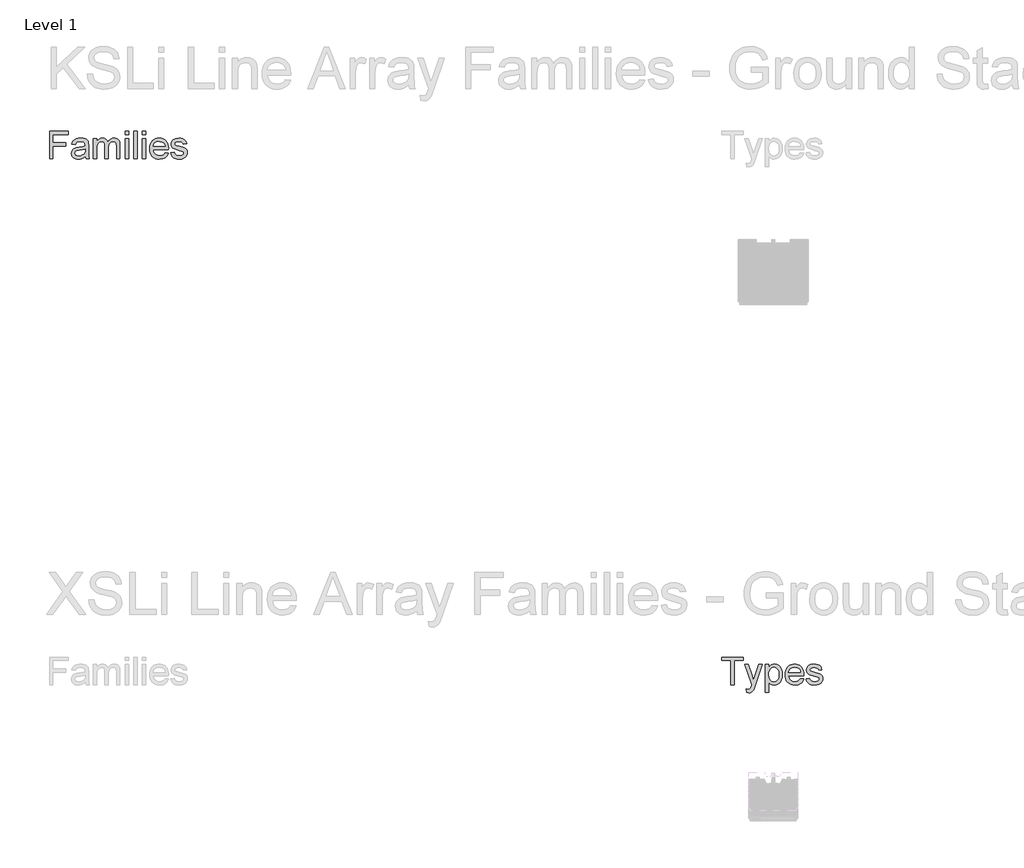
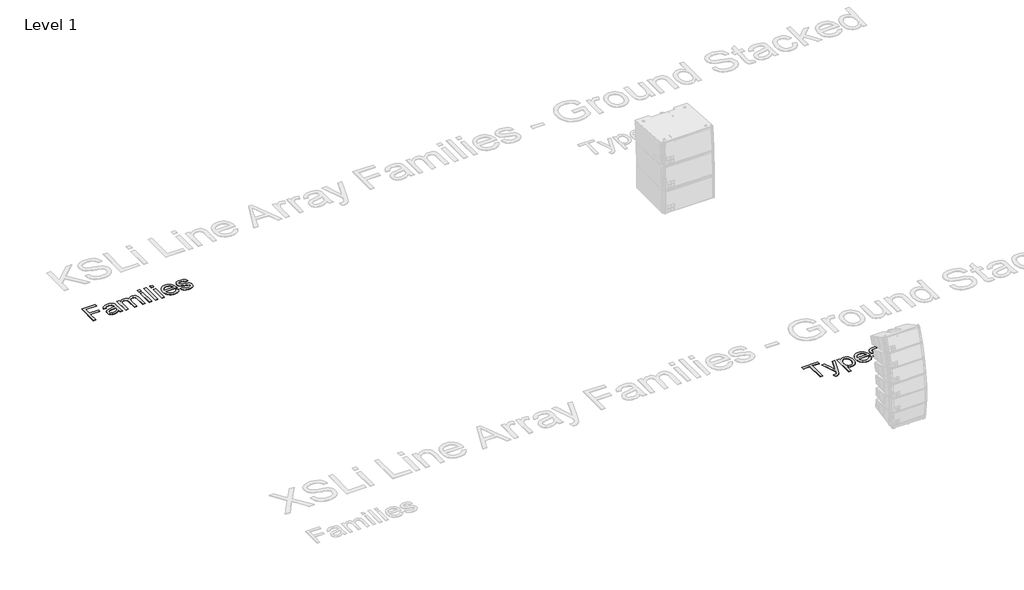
# One storey, part 40 of 52: 2 proxies.
"""IFC4 building model written with IfcOpenShell, lengths in millimetres."""

from ifc_helpers import new_model, si_unit, origin, origin_with_axes, place, context, project, spatial, polyline, outline, extrude, element, save

model = new_model("IFC4")

# Units and contexts
model_context = context("Model", 3, world=origin())
ifc_project = project(units=[si_unit("LENGTHUNIT", "METRE", prefix="MILLI")], contexts=[model_context])

# Site, building, storey
site = spatial("IfcSite", under=ifc_project)
building = spatial("IfcBuilding", under=site)
storey = spatial("IfcBuildingStorey", under=building, Name="Level 1", Elevation=0.0)

# Proxies
placement = place(None, origin())
element("IfcBuildingElementProxy", 1, Name="400mm Arial", ObjectType="400mm Arial", at=placement, inside=storey, context=model_context, shape_type="SweptSolid", body=[
    extrude(outline(polyline([(5943.279109, -32067.5695164), (5943.279109, -31675.8119407), (6206.4912302, -31675.8119407), (6206.4912302, -31724.7816376), (5992.2488059, -31724.7816376), (5992.2488059, -31841.0846679), (6175.8851696, -31841.0846679), (6175.8851696, -31890.0543649), (5992.2488059, -31890.0543649), (5992.2488059, -32067.5695164), (5943.279109, -32067.5695164)])), origin_with_axes(), (0.0, 0.0, 1.0), 5.0),
    extrude(outline(polyline([(6451.339715, -32030.8422437), (6427.9428164, -32050.90356), (6403.8524991, -32064.0306907), (6378.5188107, -32071.2757191), (6351.3917984, -32073.6907285), (6329.5879691, -32072.2381362), (6310.4681478, -32067.8803592), (6294.0323346, -32060.6173976), (6280.2805294, -32050.4492513), (6269.4219534, -32038.0215169), (6261.6658277, -32023.979791), (6257.0121523, -32008.3240737), (6255.4609271, -31991.0543649), (6257.8042037, -31970.7539388), (6264.8340332, -31952.3185695), (6275.6776648, -31936.5373195), (6289.4623476, -31924.1992513), (6323.7506999, -31908.1310695), (6366.120965, -31900.7664861), (6416.1905673, -31893.019327), (6451.0527832, -31883.9331528), (6451.339715, -31873.0297437), (6447.9682662, -31851.1751035), (6437.8539196, -31836.8763346), (6415.2341279, -31826.2598573), (6383.7194499, -31822.7210316), (6354.5480484, -31825.0762636), (6334.1758893, -31832.1419596), (6320.2836071, -31845.2093128), (6310.5518362, -31865.5695164), (6261.5821393, -31859.4483043), (6270.0824944, -31832.6680013), (6282.7672718, -31811.6263346), (6300.8200654, -31795.5342418), (6325.4244688, -31783.6026604), (6355.5164432, -31776.214166), (6390.0319499, -31773.7513346), (6423.1367084, -31775.9272342), (6449.3790143, -31782.4549331), (6469.1653542, -31792.2703924), (6482.902215, -31804.3095732), (6492.0123003, -31819.1941613), (6497.9183135, -31837.5458422), (6500.309412, -31880.394327), (6500.309412, -31941.3195164), (6502.7961544, -32026.3948005), (6512.5518362, -32067.5695164), (6463.5821393, -32067.5695164), (6455.7393362, -32050.5448952), (6451.339715, -32030.8422437)]), holes=[polyline([(6451.339715, -31932.9028498), (6418.4381999, -31941.0564956), (6372.3378211, -31947.9189482), (6330.2066658, -31955.8573952), (6319.2434792, -31961.2851888), (6311.1256999, -31968.769327), (6306.1043931, -31977.7359464), (6304.4306241, -31987.6111831), (6308.0770493, -32002.1729729), (6319.0163249, -32014.1045543), (6337.009341, -32022.0669123), (6361.8169878, -32024.7210316), (6388.1190711, -32021.7919359), (6411.3605484, -32013.004649), (6430.2024044, -32000.0568507), (6443.3056241, -31984.646221), (6449.1159934, -31968.769327), (6451.0527832, -31946.771221), (6451.339715, -31932.9028498)])]), origin_with_axes(), (0.0, 0.0, 1.0), 5.0),
    extrude(outline(polyline([(6567.6427453, -32067.5695164), (6567.6427453, -31779.8725467), (6616.6124423, -31779.8725467), (6616.6124423, -31827.2162967), (6631.341609, -31805.469256), (6650.279109, -31788.4326793), (6672.7793457, -31777.4216708), (6698.1967226, -31773.7513346), (6725.4313343, -31777.4934037), (6747.2620635, -31788.7196111), (6763.5693552, -31806.6887162), (6774.2336544, -31830.6594785), (6792.0832046, -31805.7621656), (6812.4434082, -31787.9783706), (6835.3142652, -31777.3080936), (6860.6957756, -31773.7513346), (6880.2997943, -31775.2308268), (6897.5067368, -31779.6693034), (6912.316603, -31787.0667643), (6924.7293931, -31797.4232096), (6934.5418635, -31810.8581942), (6941.5507709, -31827.4912731), (6945.7561154, -31847.3224461), (6947.1578968, -31870.3517134), (6947.1578968, -32067.5695164), (6898.1881999, -32067.5695164), (6898.1881999, -31891.3933801), (6893.6451128, -31850.505596), (6887.2608798, -31839.2315666), (6877.1943552, -31830.3725467), (6864.2465569, -31824.6339104), (6849.2185029, -31822.7210316), (6822.6892652, -31827.6227835), (6801.0617794, -31842.3280392), (6792.6720126, -31853.6080463), (6786.679322, -31867.84106), (6781.8851696, -31905.1661073), (6781.8851696, -32067.5695164), (6732.9154726, -32067.5695164), (6732.9154726, -31885.9416755), (6730.0820209, -31858.2527551), (6721.5816658, -31838.5022816), (6706.6253448, -31826.6663441), (6684.4239953, -31822.7210316), (6665.5582283, -31825.3512399), (6648.1749423, -31833.2418649), (6633.8283514, -31846.2016187), (6624.0726696, -31864.0392134), (6618.4774991, -31888.7870827), (6616.6124423, -31922.4776604), (6616.6124423, -32067.5695164), (6567.6427453, -32067.5695164)])), origin_with_axes(), (0.0, 0.0, 1.0), 5.0),
    extrude(outline(polyline([(7020.6124423, -31724.7816376), (7020.6124423, -31675.8119407), (7069.5821393, -31675.8119407), (7069.5821393, -31724.7816376), (7020.6124423, -31724.7816376)])), origin_with_axes(), (0.0, 0.0, 1.0), 5.0),
    extrude(outline(polyline([(7020.6124423, -32067.5695164), (7020.6124423, -31779.8725467), (7069.5821393, -31779.8725467), (7069.5821393, -32067.5695164), (7020.6124423, -32067.5695164)])), origin_with_axes(), (0.0, 0.0, 1.0), 5.0),
    extrude(outline(polyline([(7143.0366847, -32067.5695164), (7143.0366847, -31675.8119407), (7192.0063817, -31675.8119407), (7192.0063817, -32067.5695164), (7143.0366847, -32067.5695164)])), origin_with_axes(), (0.0, 0.0, 1.0), 5.0),
    extrude(outline(polyline([(7265.4609271, -31724.7816376), (7265.4609271, -31675.8119407), (7314.4306241, -31675.8119407), (7314.4306241, -31724.7816376), (7265.4609271, -31724.7816376)])), origin_with_axes(), (0.0, 0.0, 1.0), 5.0),
    extrude(outline(polyline([(7265.4609271, -32067.5695164), (7265.4609271, -31779.8725467), (7314.4306241, -31779.8725467), (7314.4306241, -32067.5695164), (7265.4609271, -32067.5695164)])), origin_with_axes(), (0.0, 0.0, 1.0), 5.0),
    extrude(outline(polyline([(7589.3113059, -31981.8725467), (7637.3245635, -31987.9937589), (7629.9629691, -32007.2241684), (7620.024966, -32024.1710789), (7607.5105543, -32038.8344904), (7592.419734, -32051.2144028), (7574.9079264, -32061.0477953), (7555.1305531, -32068.0716471), (7508.779109, -32073.6907285), (7478.394225, -32071.2667525), (7451.3210124, -32063.9948242), (7427.5594712, -32051.8749437), (7407.1096014, -32034.9071111), (7390.6648216, -32013.5635683), (7378.9185503, -31988.3165571), (7371.8707875, -31959.1660777), (7369.5215332, -31926.1121301), (7371.8946985, -31891.937355), (7379.0141942, -31861.8154918), (7390.8800204, -31835.7465406), (7407.4921771, -31813.7305013), (7427.8882472, -31796.2396159), (7451.1058135, -31783.7461263), (7477.144876, -31776.2500325), (7506.0054347, -31773.7513346), (7533.9364539, -31776.2440548), (7559.1954205, -31783.7222153), (7581.7823346, -31796.1858161), (7601.6971961, -31813.6348573), (7617.9536769, -31835.6030747), (7629.5654489, -31861.6242039), (7636.5325121, -31891.6982451), (7638.8548665, -31925.8251982), (7638.5679347, -31939.0240619), (7418.4912302, -31939.0240619), (7421.3276708, -31958.5653142), (7426.9676743, -31975.6796017), (7435.4112408, -31990.3669241), (7446.6583703, -32002.6272816), (7475.0765758, -32019.1975941), (7509.7355484, -32024.7210316), (7535.7985218, -32022.1625562), (7557.7488059, -32014.4871301), (7575.5864006, -32001.2165335), (7589.3113059, -31981.8725467)]), holes=[polyline([(7418.4912302, -31890.0543649), (7589.8851696, -31890.0543649), (7583.2618268, -31864.1826793), (7570.278162, -31845.675577), (7556.923877, -31835.6329634), (7541.7284461, -31828.4596679), (7505.8141468, -31822.7210316), (7472.8050323, -31827.2999852), (7445.5106431, -31841.036846), (7426.5372766, -31862.4491329), (7418.4912302, -31890.0543649)])]), origin_with_axes(), (0.0, 0.0, 1.0), 5.0),
    extrude(outline(polyline([(7669.4609271, -31981.8725467), (7718.4306241, -31975.7513346), (7726.1538722, -31996.6973573), (7741.0982378, -32012.0960316), (7763.3593646, -32021.5647816), (7793.0328968, -32024.7210316), (7822.3477643, -32021.8278024), (7842.9590332, -32013.1481149), (7855.1536355, -32000.5709369), (7859.2185029, -31985.9852361), (7855.1297245, -31973.503702), (7842.8633893, -31963.9871301), (7792.4590332, -31950.0231149), (7718.7175559, -31926.0643081), (7700.0550323, -31914.0251272), (7686.5333703, -31898.0884558), (7678.319947, -31879.2705107), (7675.5821393, -31858.5875089), (7677.7819499, -31839.6141424), (7684.3813817, -31822.099346), (7694.7826601, -31806.7365382), (7708.3880105, -31794.2191376), (7739.5201128, -31779.7290808), (7781.6512681, -31773.7513346), (7813.5246109, -31776.1543886), (7841.2374423, -31783.3635505), (7863.5224802, -31794.6734464), (7879.1124423, -31809.378702), (7889.4419878, -31828.5672674), (7895.9457756, -31853.3270922), (7846.9760787, -31859.4483043), (7840.7950891, -31844.0376746), (7828.5646203, -31832.4288914), (7810.1651175, -31825.1479965), (7785.4770256, -31822.7210316), (7757.3577075, -31825.0403971), (7738.6114953, -31831.9984937), (7728.066751, -31842.0411073), (7724.5518362, -31853.614024), (7730.3861165, -31867.864971), (7748.654109, -31878.6727361), (7790.8330862, -31889.0979255), (7862.7095067, -31912.1481149), (7881.6948287, -31923.1710789), (7896.0892415, -31938.2589104), (7905.1634603, -31957.4594312), (7908.1881999, -31980.8204634), (7904.6374186, -32004.9705581), (7893.9850749, -32027.6859937), (7876.6376554, -32047.1854018), (7853.0016468, -32061.6874142), (7824.4519309, -32070.6899), (7792.3633893, -32073.6907285), (7766.0075062, -32072.244114), (7742.9872056, -32067.9042702), (7723.3024873, -32060.6711973), (7706.9533514, -32050.5448952), (7693.5990664, -32037.5731859), (7682.8989006, -32021.8038914), (7674.8528542, -32003.2370117), (7669.4609271, -31981.8725467)])), origin_with_axes(), (0.0, 0.0, 1.0), 5.0),
])
element("IfcBuildingElementProxy", 2, Name="400mm Arial", ObjectType="400mm Arial", at=placement, inside=storey, context=model_context, shape_type="SweptSolid", body=[
    extrude(outline(polyline([(15654.0416973, -39567.5695164), (15654.0416973, -39224.7816376), (15525.4962428, -39224.7816376), (15525.4962428, -39175.8119407), (15831.5568488, -39175.8119407), (15831.5568488, -39224.7816376), (15703.0113943, -39224.7816376), (15703.0113943, -39567.5695164), (15654.0416973, -39567.5695164)])), origin_with_axes(), (0.0, 0.0, 1.0), 5.0),
    extrude(outline(polyline([(15880.5265458, -39677.7513346), (15874.4053337, -39630.5988725), (15899.2727579, -39634.9028498), (15912.3520666, -39633.5518791), (15922.5142352, -39629.4989672), (15936.7651821, -39614.4350467), (15950.1553337, -39578.3772816), (15953.9810912, -39566.5174331), (15849.9204852, -39279.8725467), (15901.5682125, -39279.8725467), (15956.7547655, -39439.5979255), (15975.9791973, -39503.488077), (15995.2036291, -39447.0581528), (16051.9204852, -39279.8725467), (16103.1856367, -39279.8725467), (16003.0464321, -39574.4558801), (15977.0312806, -39638.3460316), (15963.7128621, -39658.7421017), (15948.6250306, -39672.8734937), (15931.0982787, -39681.1227835), (15910.4630988, -39683.8725467), (15880.5265458, -39677.7513346)])), origin_with_axes(), (0.0, 0.0, 1.0), 5.0),
    extrude(outline(polyline([(16143.738667, -39677.7513346), (16143.738667, -39279.8725467), (16192.708364, -39279.8725467), (16192.708364, -39327.8858043), (16208.6809018, -39304.2019738), (16226.5663185, -39287.284952), (16247.4166973, -39277.134739), (16272.2841215, -39273.7513346), (16305.4008356, -39278.4857096), (16334.3570382, -39292.6888346), (16357.9332693, -39315.4999142), (16374.9100685, -39346.0581528), (16385.167881, -39382.1398289), (16388.5871518, -39421.521221), (16384.7255278, -39463.4013109), (16373.1406556, -39500.8578687), (16354.2031556, -39531.989971), (16328.2836481, -39554.8966945), (16298.0960297, -39568.99222), (16266.3541973, -39573.6907285), (16243.8420051, -39570.546434), (16223.7448223, -39561.1135505), (16206.5408687, -39546.874559), (16192.708364, -39529.3119407), (16192.708364, -39677.7513346), (16143.738667, -39677.7513346)]), holes=[polyline([(16192.708364, -39426.0164861), (16198.0046471, -39469.9170543), (16204.625001, -39486.9177645), (16213.8934965, -39500.6187589), (16237.3382172, -39518.6954634), (16250.7552686, -39523.2146395), (16265.302114, -39524.7210316), (16280.0581805, -39523.1608398), (16293.7203195, -39518.4802645), (16317.7628147, -39499.7579634), (16327.3242198, -39485.5608161), (16334.1537948, -39467.9324426), (16339.6174549, -39422.3820164), (16334.2853053, -39378.7205581), (16327.6201182, -39361.5883375), (16318.2888564, -39347.5884558), (16294.8800022, -39328.9378876), (16281.6153834, -39324.2752456), (16267.3106367, -39322.7210316), (16253.0507231, -39324.3738784), (16239.6336717, -39329.3324189), (16215.3281556, -39349.1665808), (16205.4319968, -39363.8867809), (16198.3633119, -39381.6018318), (16194.1221009, -39402.3117335), (16192.708364, -39426.0164861)])]), origin_with_axes(), (0.0, 0.0, 1.0), 5.0),
    extrude(outline(polyline([(16645.1041973, -39481.8725467), (16693.1174549, -39487.9937589), (16685.7558604, -39507.2241684), (16675.8178573, -39524.1710789), (16663.3034456, -39538.8344904), (16648.2126253, -39551.2144028), (16630.7008178, -39561.0477953), (16610.9234445, -39568.0716471), (16564.5720003, -39573.6907285), (16534.1871163, -39571.2667525), (16507.1139037, -39563.9948242), (16483.3523625, -39551.8749437), (16462.9024928, -39534.9071111), (16446.4577129, -39513.5635683), (16434.7114416, -39488.3165571), (16427.6636788, -39459.1660777), (16425.3144246, -39426.1121301), (16427.6875898, -39391.937355), (16434.8070856, -39361.8154918), (16446.6729118, -39335.7465406), (16463.2850685, -39313.7305013), (16483.6811386, -39296.2396159), (16506.8987049, -39283.7461263), (16532.9377674, -39276.2500325), (16561.7983261, -39273.7513346), (16589.7293453, -39276.2440548), (16614.9883119, -39283.7222153), (16637.5752259, -39296.1858161), (16657.4900875, -39313.6348573), (16673.7465683, -39335.6030747), (16685.3583403, -39361.6242039), (16692.3254035, -39391.6982451), (16694.6477579, -39425.8251982), (16694.3608261, -39439.0240619), (16474.2841215, -39439.0240619), (16477.1205621, -39458.5653142), (16482.7605657, -39475.6796017), (16491.2041322, -39490.3669241), (16502.4512617, -39502.6272816), (16530.8694672, -39519.1975941), (16565.5284397, -39524.7210316), (16591.5914132, -39522.1625562), (16613.5416973, -39514.4871301), (16631.379292, -39501.2165335), (16645.1041973, -39481.8725467)]), holes=[polyline([(16474.2841215, -39390.0543649), (16645.6780609, -39390.0543649), (16639.0547181, -39364.1826793), (16626.0710534, -39345.675577), (16612.7167683, -39335.6329634), (16597.5213375, -39328.4596679), (16561.6070382, -39322.7210316), (16528.5979236, -39327.2999852), (16501.3035344, -39341.036846), (16482.3301679, -39362.4491329), (16474.2841215, -39390.0543649)])]), origin_with_axes(), (0.0, 0.0, 1.0), 5.0),
    extrude(outline(polyline([(16725.2538185, -39481.8725467), (16774.2235155, -39475.7513346), (16781.9467636, -39496.6973573), (16796.8911291, -39512.0960316), (16819.152256, -39521.5647816), (16848.8257882, -39524.7210316), (16878.1406556, -39521.8278024), (16898.7519246, -39513.1481149), (16910.9465268, -39500.5709369), (16915.0113943, -39485.9852361), (16910.9226159, -39473.503702), (16898.6562806, -39463.9871301), (16848.2519246, -39450.0231149), (16774.5104473, -39426.0643081), (16755.8479236, -39414.0251272), (16742.3262617, -39398.0884558), (16734.1128384, -39379.2705107), (16731.3750306, -39358.5875089), (16733.5748412, -39339.6141424), (16740.1742731, -39322.099346), (16750.5755515, -39306.7365382), (16764.1809018, -39294.2191376), (16795.3130041, -39279.7290808), (16837.4441594, -39273.7513346), (16869.3175022, -39276.1543886), (16897.0303337, -39283.3635505), (16919.3153715, -39294.6734464), (16934.9053337, -39309.378702), (16945.2348791, -39328.5672674), (16951.738667, -39353.3270922), (16902.76897, -39359.4483043), (16896.5879804, -39344.0376746), (16884.3575117, -39332.4288914), (16865.9580089, -39325.1479965), (16841.269917, -39322.7210316), (16813.1505988, -39325.0403971), (16794.4043867, -39331.9984937), (16783.8596424, -39342.0411073), (16780.3447276, -39353.614024), (16786.1790079, -39367.864971), (16804.4470003, -39378.6727361), (16846.6259776, -39389.0979255), (16918.5023981, -39412.1481149), (16937.48772, -39423.1710789), (16951.8821329, -39438.2589104), (16960.9563517, -39457.4594312), (16963.9810912, -39480.8204634), (16960.43031, -39504.9705581), (16949.7779662, -39527.6859937), (16932.4305467, -39547.1854018), (16908.7945382, -39561.6874142), (16880.2448223, -39570.6899), (16848.1562806, -39573.6907285), (16821.8003976, -39572.244114), (16798.7800969, -39567.9042702), (16779.0953786, -39560.6711973), (16762.7462428, -39550.5448952), (16749.3919577, -39537.5731859), (16738.691792, -39521.8038914), (16730.6457456, -39503.2370117), (16725.2538185, -39481.8725467)])), origin_with_axes(), (0.0, 0.0, 1.0), 5.0),
])

save(model, "model.ifc")
